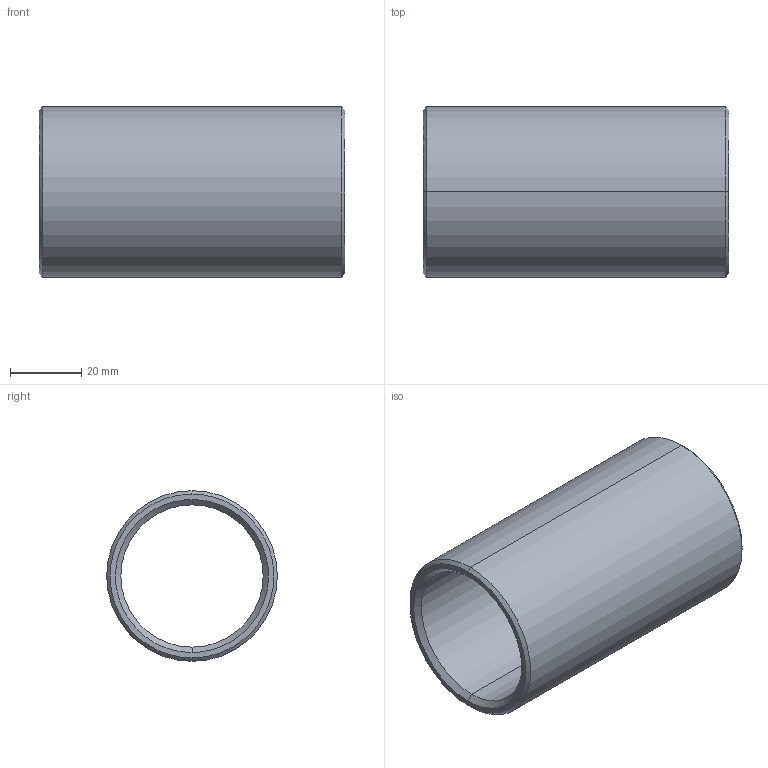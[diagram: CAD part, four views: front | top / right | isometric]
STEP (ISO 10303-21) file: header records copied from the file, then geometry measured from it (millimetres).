
FILE_DESCRIPTION(('CATIA V5 STEP Exchange'),'2;1');
FILE_NAME('C:\Users\Utente\Desktop\IO LAVORO\3D X SITO CF\X SITO\PLASTICA\352\352-40X86.stp','2021-04-14T14:52:04+00:00',('none'),('none'),'CATIA Version 5 Release 20 GA (IN-10)','CATIA V5 STEP AP203','none');
FILE_SCHEMA(('CONFIG_CONTROL_DESIGN'));
Length unit declared in the file: millimetre
Products named in the file (1): 352-40X86
Bounding box: 86 x 48 x 48 mm (x, y, z)
Volume: 47230.3 mm3; surface area: 24541.2 mm2
Topology: 1 solids, 1 shells, 14 faces, 44 edges, 32 vertices
Faces by surface type: cone 6, cylinder 4, plane 2, torus 2
Entity records: 634 total; most frequent: CARTESIAN_POINT 203, ORIENTED_EDGE 88, DIRECTION 64, EDGE_CURVE 44, AXIS2_PLACEMENT_3D 41, VERTEX_POINT 32, CIRCLE 26, EDGE_LOOP 16
